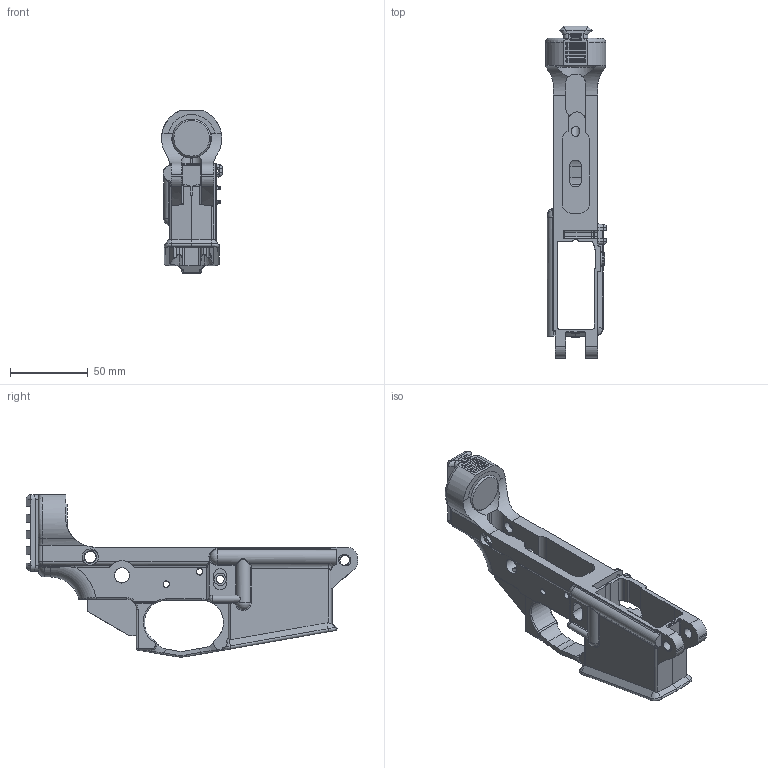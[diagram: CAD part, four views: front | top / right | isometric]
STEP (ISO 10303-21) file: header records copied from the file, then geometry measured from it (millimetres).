
FILE_DESCRIPTION(/* description */ (''),/* implementation_level */ '2;1');
FILE_NAME(/* name */ 'D:/Users/Admin/Documents/SW1522/STEP/SW1522.step',/* time_stamp */ '2020-10-31T19:08:13-04:00',/* author */ (''),/* organization */ (''),/* preprocessor_version */ 'ST-DEVELOPER v18.1',/* originating_system */ 'Autodesk Translation Framework v9.3.0.1241',/* authorisation */ '');
FILE_SCHEMA (('AUTOMOTIVE_DESIGN { 1 0 10303 214 3 1 1 }'));
Length unit declared in the file: millimetre
Products named in the file (6): SW1522; SW1522_1; Lower Receiver; Plug; Bevel; Component48
Assembly tree (5 placements, depth 5):
  SW1522
    SW1522_1
      Lower Receiver
        Plug
          Bevel
    Component48
Bounding box: 39.21 x 213.55 x 104.4 mm (x, y, z)
Volume: 130840.9 mm3; surface area: 57275.6 mm2
Topology: 2 solids, 2 shells, 633 faces, 1694 edges, 1046 vertices
Faces by surface type: cylinder 243, plane 221, bspline 105, torus 44, cone 12, sphere 8
Full cylindrical faces by diameter (mm): 3.175 x2, 3.962 x2, 4.2 x1, 4.262 x2, 4.35 x1, 4.9 x1, 5.182 x1, 5.537 x1, 7 x3, 7.475 x2, 7.925 x3, 9.85 x2, 10.476 x2
Entity records: 25534 total; most frequent: CARTESIAN_POINT 10121, ORIENTED_EDGE 3348, DIRECTION 3080, EDGE_CURVE 1674, AXIS2_PLACEMENT_3D 1136, VERTEX_POINT 1046, LINE 808, VECTOR 808
